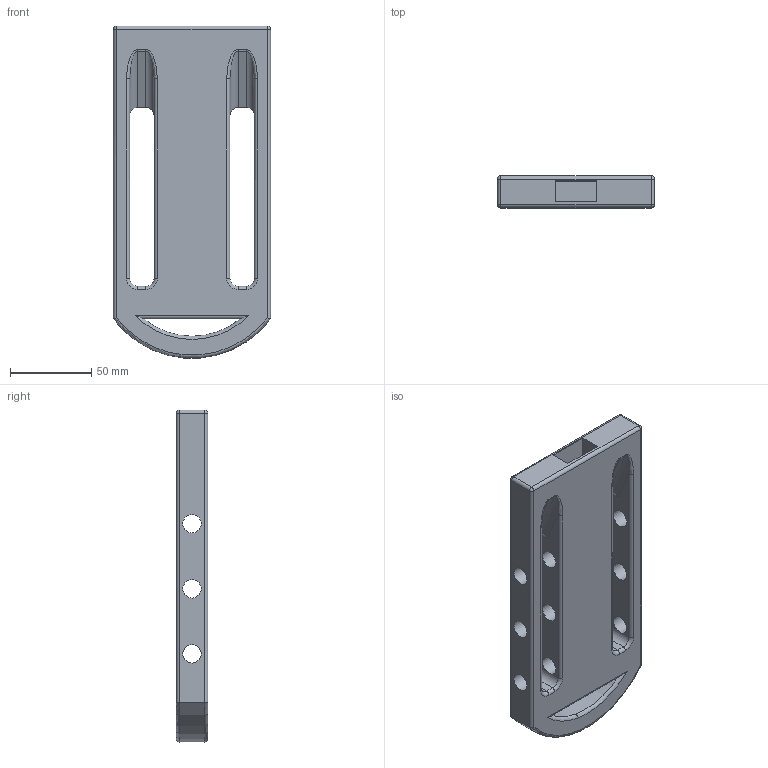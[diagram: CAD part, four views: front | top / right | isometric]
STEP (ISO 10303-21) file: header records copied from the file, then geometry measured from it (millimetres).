
FILE_DESCRIPTION(('STEP AP203'), '1');
FILE_NAME('ãîëîâêà ãðèôà êëàññèêà ïîä 12õ25', '2016-03-11T07:36:06', ('ss'), (''), 'ASCON STEP Converter 1.3', 'ASCON Math Kernel', '');
FILE_SCHEMA(('CONFIG_CONTROL_DESIGN'));
Length unit declared in the file: millimetre
Products named in the file (1): 3
Bounding box: 96.6 x 19.5 x 204.03 mm (x, y, z)
Volume: 222866.7 mm3; surface area: 66903.4 mm2
Topology: 1 solids, 1 shells, 97 faces, 242 edges, 140 vertices
Faces by surface type: cylinder 52, plane 21, torus 16, sphere 4, bspline 4
Full cylindrical faces by diameter (mm): 11.3 x12
Entity records: 3602 total; most frequent: CARTESIAN_POINT 1294, DIRECTION 478, ORIENTED_EDGE 452, EDGE_CURVE 226, AXIS2_PLACEMENT_3D 190, VERTEX_POINT 140, EDGE_LOOP 136, FACE_BOUND 116
